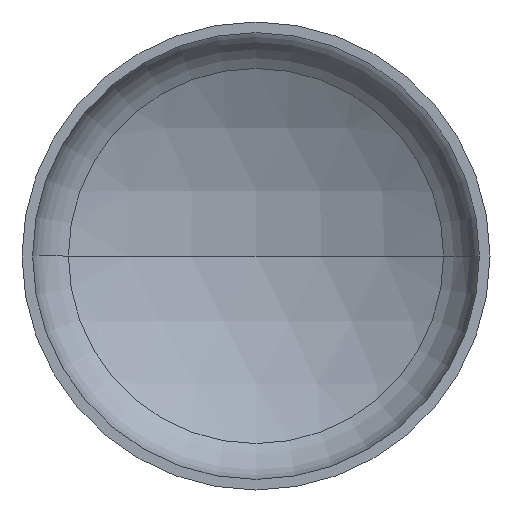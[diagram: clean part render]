
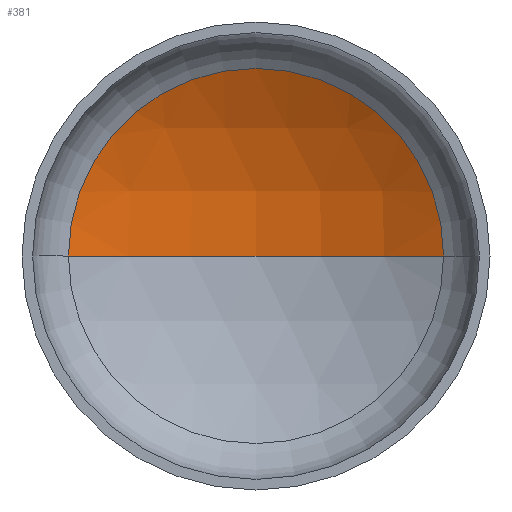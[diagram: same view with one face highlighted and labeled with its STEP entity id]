
A CAD part, front view. The second image highlights one B-rep face of the part: STEP entity #381.
In plain terms, the highlighted spherical face has radius 2400 mm.
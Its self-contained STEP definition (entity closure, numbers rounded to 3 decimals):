
#10 = ORIENTED_EDGE ( 'NONE', *, *, #99, .T. ) ;
#20 = DIRECTION ( 'NONE',  ( -1., 0., 0. ) ) ;
#21 = EDGE_LOOP ( 'NONE', ( #71, #62, #10 ) ) ;
#26 = VERTEX_POINT ( 'NONE', #350 ) ;
#37 = AXIS2_PLACEMENT_3D ( 'NONE', #397, #262, #216 ) ;
#38 = AXIS2_PLACEMENT_3D ( 'NONE', #352, #307, #20 ) ;
#43 = AXIS2_PLACEMENT_3D ( 'NONE', #183, #184, #290 ) ;
#62 = ORIENTED_EDGE ( 'NONE', *, *, #101, .T. ) ;
#63 = VERTEX_POINT ( 'NONE', #274 ) ;
#71 = ORIENTED_EDGE ( 'NONE', *, *, #102, .F. ) ;
#79 = DIRECTION ( 'NONE',  ( 0., 0., -1. ) ) ;
#99 = EDGE_CURVE ( 'NONE', #26, #63, #256, .T. ) ;
#101 = EDGE_CURVE ( 'NONE', #119, #26, #315, .T. ) ;
#102 = EDGE_CURVE ( 'NONE', #119, #63, #374, .T. ) ;
#119 = VERTEX_POINT ( 'NONE', #356 ) ;
#144 = SPHERICAL_SURFACE ( 'NONE', #366, 2400. ) ;
#183 = CARTESIAN_POINT ( 'NONE',  ( 0., 518.098, 0. ) ) ;
#184 = DIRECTION ( 'NONE',  ( 0., -1., 0. ) ) ;
#216 = DIRECTION ( 'NONE',  ( 1., 0., 0. ) ) ;
#226 = DIRECTION ( 'NONE',  ( -1., 0., 0. ) ) ;
#256 = CIRCLE ( 'NONE', #43, 1202.474 ) ;
#262 = DIRECTION ( 'NONE',  ( 0., 0., 1. ) ) ;
#270 = CARTESIAN_POINT ( 'NONE',  ( 0., -1558.933, 0. ) ) ;
#274 = CARTESIAN_POINT ( 'NONE',  ( -1202.474, 518.098, 0. ) ) ;
#290 = DIRECTION ( 'NONE',  ( 1., 0., 0. ) ) ;
#307 = DIRECTION ( 'NONE',  ( 0., 0., -1. ) ) ;
#315 = CIRCLE ( 'NONE', #38, 2400. ) ;
#350 = CARTESIAN_POINT ( 'NONE',  ( 1202.474, 518.098, 0. ) ) ;
#352 = CARTESIAN_POINT ( 'NONE',  ( 0., -1558.933, 0. ) ) ;
#356 = CARTESIAN_POINT ( 'NONE',  ( 0., 841.067, 0. ) ) ;
#366 = AXIS2_PLACEMENT_3D ( 'NONE', #270, #79, #226 ) ;
#374 = CIRCLE ( 'NONE', #37, 2400. ) ;
#381 = ADVANCED_FACE ( 'NONE', ( #390 ), #144, .F. ) ;
#390 = FACE_OUTER_BOUND ( 'NONE', #21, .T. ) ;
#397 = CARTESIAN_POINT ( 'NONE',  ( 0., -1558.933, 0. ) ) ;
